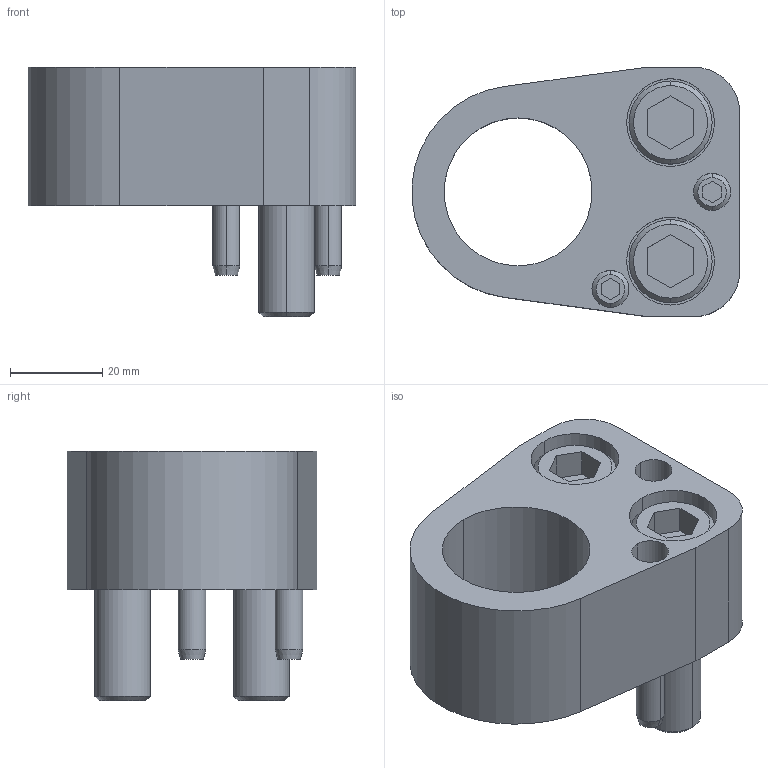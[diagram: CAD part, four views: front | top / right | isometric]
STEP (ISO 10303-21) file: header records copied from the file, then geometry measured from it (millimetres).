
FILE_DESCRIPTION(/* description */ (''),/* implementation_level */ '2;1');
FILE_NAME(/* name */ '3d_cpar32_02847_r00.stp',/* time_stamp */ '2011-01-10T14:16:26+09:00',/* author */ ('MISUMI'),/* organization */ (''),/* preprocessor_version */ 'ST-DEVELOPER v11',/* originating_system */ 'UGS - NX 5.0',/* authorisation */ '');
FILE_SCHEMA (('CONFIG_CONTROL_DESIGN'));
Length unit declared in the file: millimetre
Products named in the file (1): 3d_cpar32_02847_r00
Bounding box: 70.92 x 54 x 54 mm (x, y, z)
Volume: 74693.2 mm3; surface area: 25869 mm2
Topology: 7 solids, 7 shells, 135 faces, 292 edges, 186 vertices
Faces by surface type: plane 60, cylinder 49, cone 26
Entity records: 3816 total; most frequent: DIRECTION 684, CARTESIAN_POINT 662, ORIENTED_EDGE 584, EDGE_CURVE 292, AXIS2_PLACEMENT_3D 260, VERTEX_POINT 186, LINE 164, VECTOR 164
